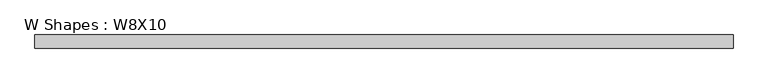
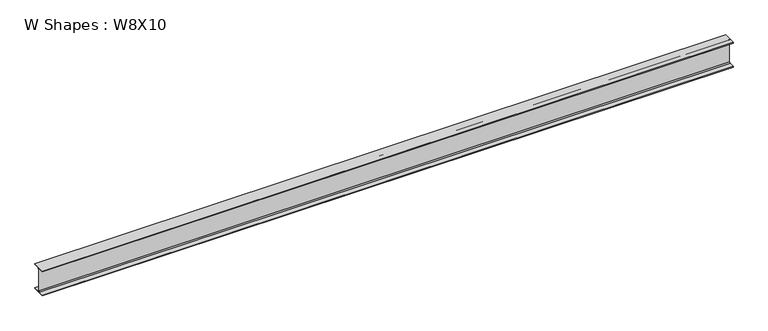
"""IFC4 building model written with IfcOpenShell, lengths in millimetres: beam geometry, W Shapes : W8X10."""

from ifc_helpers import new_model, si_unit, point, frame, frame_2d, origin, place, context, project, spatial, polyline, circle_curve, trimmed, segment, composite_curve, outline, extrude, source, transform, mapped, element, save


def w_shapes_w8x10_52d2aaeb(model_context):
    return source(origin(), model_context, "Body", "SweptSolid", [
        extrude(outline(composite_curve([segment(polyline([(50.038, -94.996), (50.038, -100.203), (-50.038, -100.203), (-50.038, -94.996), (-9.779, -94.996)]), True, "CONTINUOUS"), segment(trimmed(circle_curve(frame_2d((-9.779, -87.376)), 7.62), [point((-9.779, -94.996))], [point((-2.159, -87.376))], True, "CARTESIAN"), True, "CONTINUOUS"), segment(polyline([(-2.159, -87.376), (-2.159, 87.376)]), True, "CONTINUOUS"), segment(trimmed(circle_curve(frame_2d((-9.779, 87.376)), 7.62), [point((-2.159, 87.376))], [point((-9.779, 94.996))], True, "CARTESIAN"), True, "CONTINUOUS"), segment(polyline([(-9.779, 94.996), (-50.038, 94.996), (-50.038, 100.203), (50.038, 100.203), (50.038, 94.996), (9.779, 94.996)]), True, "CONTINUOUS"), segment(trimmed(circle_curve(frame_2d((9.779, 87.376)), 7.62), [point((9.779, 94.996))], [point((2.159, 87.376))], True, "CARTESIAN"), True, "CONTINUOUS"), segment(polyline([(2.159, 87.376), (2.159, -87.376)]), True, "CONTINUOUS"), segment(trimmed(circle_curve(frame_2d((9.779, -87.376)), 7.62), [point((2.159, -87.376))], [point((9.779, -94.996))], True, "CARTESIAN"), True, "CONTINUOUS"), segment(polyline([(9.779, -94.996), (50.038, -94.996)]), True, "CONTINUOUS")], self_intersect=False)), frame((-2651.6511428, 0.0, 0.0), z_axis=(1.0, 0.0, 0.0), x_axis=(0.0, 1.0, 0.0)), (0.0, 0.0, 1.0), 5303.3022857),
    ])


if __name__ == "__main__":
    model = new_model("IFC4")
    model_context = context("Model", 3, world=origin())
    ifc_project = project(units=[si_unit("LENGTHUNIT", "METRE", prefix="MILLI")], contexts=[model_context])
    site = spatial("IfcSite", under=ifc_project)
    building = spatial("IfcBuilding", under=site)
    placement = place(None, origin())
    w_shapes_w8x10_shape = w_shapes_w8x10_52d2aaeb(model_context)
    element("IfcBeam", 1, ObjectType="W Shapes : W8X10", at=placement, inside=building, context=model_context, shape_type="MappedRepresentation", body=[
        mapped(w_shapes_w8x10_shape, transform((0.0, 0.0, 0.0), x_axis=(1.0, 0.0, 0.0), y_axis=(0.0, 1.0, 0.0), z_axis=(0.0, 0.0, 1.0))),
    ])
    save(model, "model.ifc")
